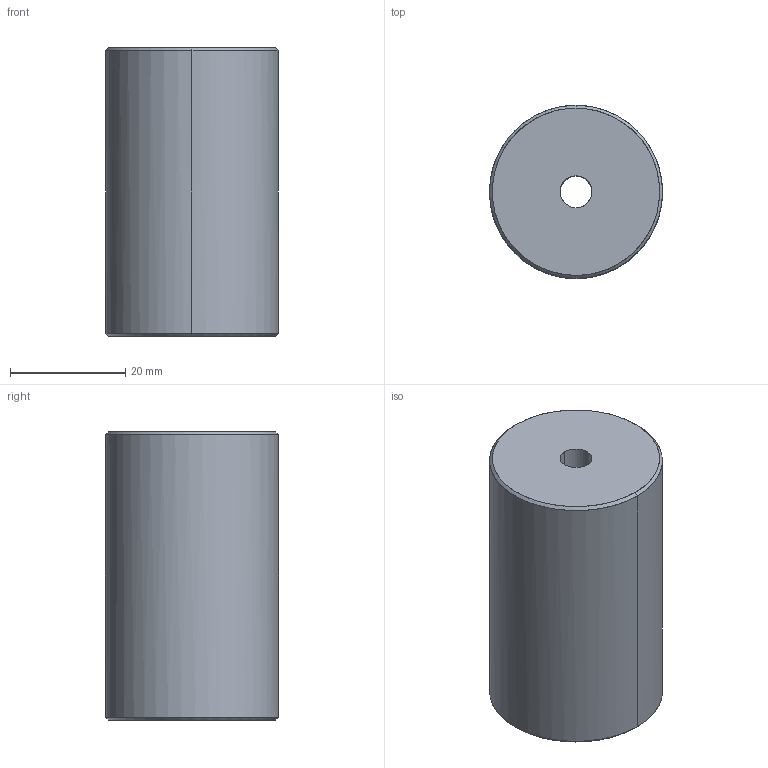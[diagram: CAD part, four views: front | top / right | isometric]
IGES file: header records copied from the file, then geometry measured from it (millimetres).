
Global section: file name: E:\UnigraphicsGraphicData\MISUMI_PRESS-PARTS\IGES\3d_fwss-d30-v5.5-t50_00539_r00.igs; native system: NX V5.0; preprocessor: UGS NX IGES V5.0; author: MISUMI; date: 20110105.160701; units: millimetre
Bounding box: 29.98 x 30 x 50 mm (x, y, z)
Surface area: 6886.8 mm2 (no closed solid volume)
Topology: 0 solids, 0 shells, 10 faces, 80 edges, 80 vertices
Faces by surface type: bspline 10
